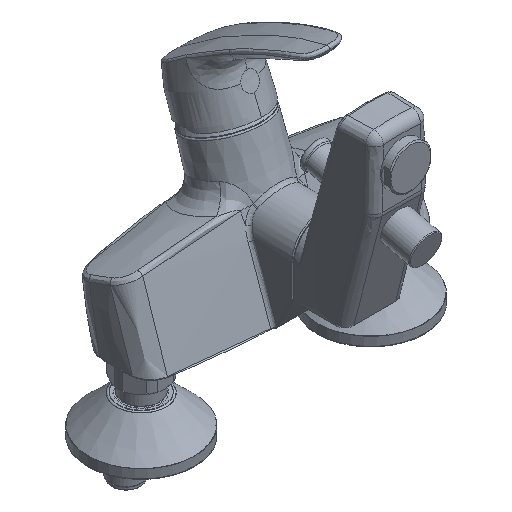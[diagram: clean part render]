
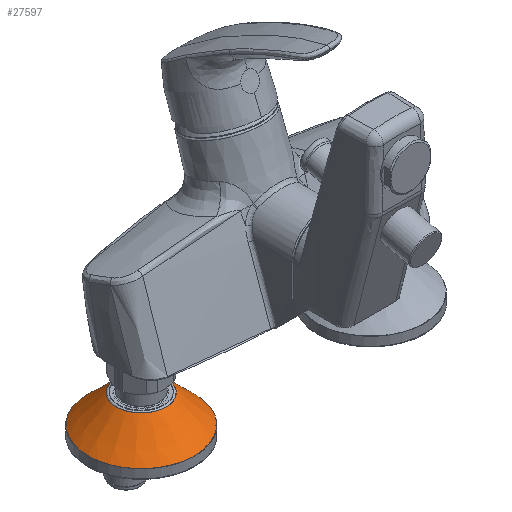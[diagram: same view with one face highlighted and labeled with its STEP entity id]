
A CAD part, isometric view. The second image highlights one B-rep face of the part: STEP entity #27597.
In plain terms, the highlighted conical face has half-angle 45.496 degrees and reference radius 35 mm.
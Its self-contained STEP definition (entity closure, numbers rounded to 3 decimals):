
#308 = DIRECTION ( 'NONE',  ( 0., 0., -1. ) ) ;
#946 = EDGE_CURVE ( 'NONE', #3327, #3327, #5211, .T. ) ;
#1017 = FACE_BOUND ( 'NONE', #15155, .T. ) ;
#1656 = AXIS2_PLACEMENT_3D ( 'NONE', #22099, #8036, #24454 ) ;
#3327 = VERTEX_POINT ( 'NONE', #14774 ) ;
#4480 = VERTEX_POINT ( 'NONE', #12700 ) ;
#5211 = CIRCLE ( 'NONE', #21249, 35. ) ;
#5271 = CARTESIAN_POINT ( 'NONE',  ( -75.143, -0.268, 6. ) ) ;
#6767 = DIRECTION ( 'NONE',  ( -1., 0., 0. ) ) ;
#6877 = DIRECTION ( 'NONE',  ( 0., 0., -1. ) ) ;
#6966 = CARTESIAN_POINT ( 'NONE',  ( -75.143, -0.268, 6. ) ) ;
#8036 = DIRECTION ( 'NONE',  ( 0., 0., -1. ) ) ;
#12486 = EDGE_CURVE ( 'NONE', #4480, #4480, #25146, .T. ) ;
#12700 = CARTESIAN_POINT ( 'NONE',  ( -91.395, -0.268, 24.426 ) ) ;
#14774 = CARTESIAN_POINT ( 'NONE',  ( -110.143, -0.268, 6. ) ) ;
#15155 = EDGE_LOOP ( 'NONE', ( #22773 ) ) ;
#15472 = EDGE_LOOP ( 'NONE', ( #16128 ) ) ;
#16128 = ORIENTED_EDGE ( 'NONE', *, *, #946, .F. ) ;
#19471 = DIRECTION ( 'NONE',  ( -1., 0., 0. ) ) ;
#20093 = FACE_OUTER_BOUND ( 'NONE', #15472, .T. ) ;
#21249 = AXIS2_PLACEMENT_3D ( 'NONE', #6966, #6877, #6767 ) ;
#22099 = CARTESIAN_POINT ( 'NONE',  ( -75.143, -0.268, 24.426 ) ) ;
#22773 = ORIENTED_EDGE ( 'NONE', *, *, #12486, .T. ) ;
#23560 = AXIS2_PLACEMENT_3D ( 'NONE', #5271, #308, #19471 ) ;
#24454 = DIRECTION ( 'NONE',  ( -1., 0., 0. ) ) ;
#24837 = CONICAL_SURFACE ( 'NONE', #23560, 35., 0.794 ) ;
#25146 = CIRCLE ( 'NONE', #1656, 16.252 ) ;
#27597 = ADVANCED_FACE ( 'NONE', ( #1017, #20093 ), #24837, .T. ) ;
